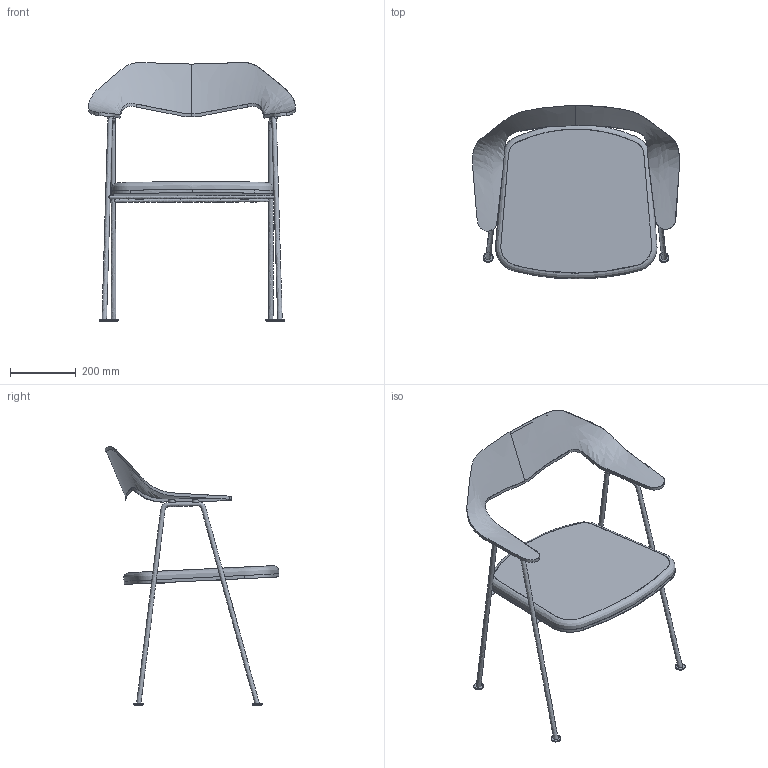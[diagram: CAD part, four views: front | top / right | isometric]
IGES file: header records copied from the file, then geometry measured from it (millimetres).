
Global section: file name: S:\CASE\PRODUCT DEVELOPMENT\DESIGNERS\ROBIN DAY\675 Chair\Computer models\675 chair-PROPERTY OF CASE FURNITURE LTD- to be used for visulisation only.igs; native system: Rhinoceros ( Oct 24 2012 ); preprocessor: Trout Lake IGES 012 Oct 24 2012; date: 160929.114234; units: millimetre
Bounding box: 628.92 x 528.29 x 787.65 mm (x, y, z)
Surface area: 1188457.3 mm2 (no closed solid volume)
Topology: 0 solids, 0 shells, 107 faces, 1470 edges, 1441 vertices
Faces by surface type: bspline 107
